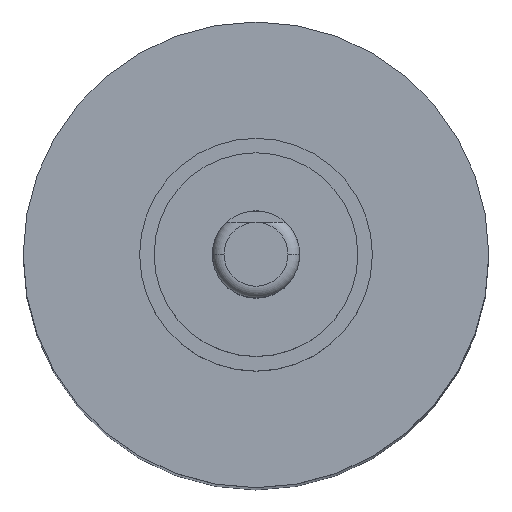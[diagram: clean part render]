
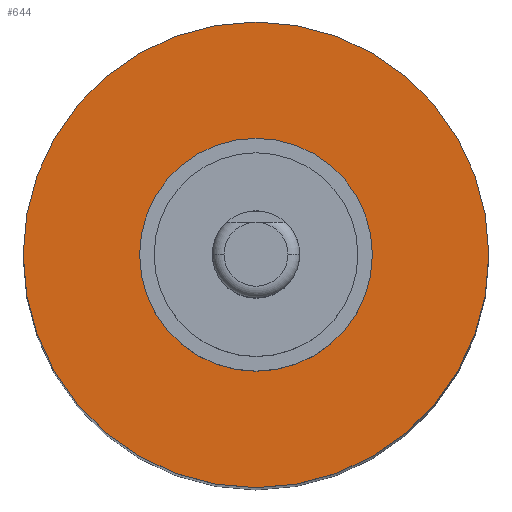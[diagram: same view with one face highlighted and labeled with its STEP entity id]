
A CAD part, top view. The second image highlights one B-rep face of the part: STEP entity #644.
In plain terms, the highlighted planar face has unit normal (0, 0, 1).
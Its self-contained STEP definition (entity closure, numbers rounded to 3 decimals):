
#3 = CIRCLE ( 'NONE', #686, 4. ) ;
#43 = CIRCLE ( 'NONE', #504, 4. ) ;
#53 = CARTESIAN_POINT ( 'NONE',  ( 0., 4., -6. ) ) ;
#212 = CARTESIAN_POINT ( 'NONE',  ( 0., 0., -6. ) ) ;
#229 = ORIENTED_EDGE ( 'NONE', *, *, #654, .T. ) ;
#277 = DIRECTION ( 'NONE',  ( 0., -1., 0. ) ) ;
#350 = DIRECTION ( 'NONE',  ( 0., -1., 0. ) ) ;
#358 = DIRECTION ( 'NONE',  ( 0., 0., 1. ) ) ;
#422 = DIRECTION ( 'NONE',  ( 0., 0., 1. ) ) ;
#426 = DIRECTION ( 'NONE',  ( 0., -1., 0. ) ) ;
#436 = PLANE ( 'NONE',  #950 ) ;
#504 = AXIS2_PLACEMENT_3D ( 'NONE', #800, #422, #277 ) ;
#545 = ORIENTED_EDGE ( 'NONE', *, *, #721, .T. ) ;
#644 = ADVANCED_FACE ( 'NONE', ( #887 ), #436, .T. ) ;
#650 = CARTESIAN_POINT ( 'NONE',  ( 0., 0., -6. ) ) ;
#654 = EDGE_CURVE ( 'NONE', #792, #836, #3, .T. ) ;
#658 = CARTESIAN_POINT ( 'NONE',  ( 0., -4., -6. ) ) ;
#686 = AXIS2_PLACEMENT_3D ( 'NONE', #650, #358, #350 ) ;
#721 = EDGE_CURVE ( 'NONE', #836, #792, #43, .T. ) ;
#792 = VERTEX_POINT ( 'NONE', #53 ) ;
#800 = CARTESIAN_POINT ( 'NONE',  ( 0., 0., -6. ) ) ;
#836 = VERTEX_POINT ( 'NONE', #658 ) ;
#887 = FACE_OUTER_BOUND ( 'NONE', #937, .T. ) ;
#891 = DIRECTION ( 'NONE',  ( 0., 0., 1. ) ) ;
#937 = EDGE_LOOP ( 'NONE', ( #545, #229 ) ) ;
#950 = AXIS2_PLACEMENT_3D ( 'NONE', #212, #891, #426 ) ;
